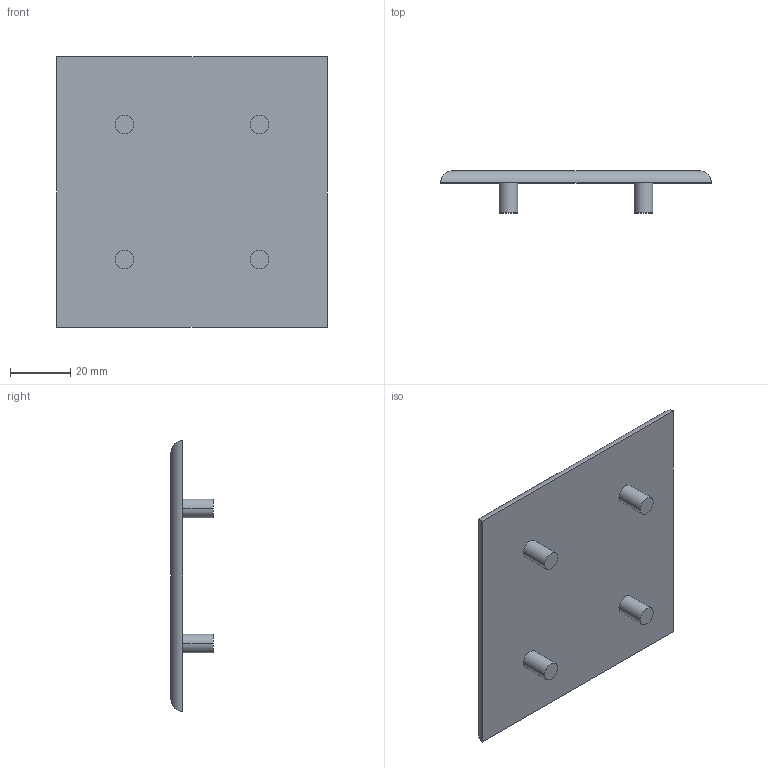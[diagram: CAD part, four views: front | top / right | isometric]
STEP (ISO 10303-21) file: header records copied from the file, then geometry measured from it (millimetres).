
FILE_DESCRIPTION((''),'2;1');
FILE_NAME('TAC909010','2002-12-27T',('Lipro doo'),('Lipro d.o.o.'),'PRO/ENGINEER BY PARAMETRIC TECHNOLOGY CORPORATION, 2001150','PRO/ENGINEER BY PARAMETRIC TECHNOLOGY CORPORATION, 2001150','');
FILE_SCHEMA(('CONFIG_CONTROL_DESIGN'));
Length unit declared in the file: millimetre
Products named in the file (1): TAC909010
Bounding box: 90 x 14 x 90 mm (x, y, z)
Volume: 32396.1 mm3; surface area: 17792 mm2
Topology: 1 solids, 1 shells, 18 faces, 36 edges, 24 vertices
Faces by surface type: cylinder 12, plane 6
Entity records: 550 total; most frequent: CARTESIAN_POINT 122, DIRECTION 84, ORIENTED_EDGE 72, EDGE_CURVE 36, AXIS2_PLACEMENT_3D 34, VERTEX_POINT 24, EDGE_LOOP 22, FACE_OUTER_BOUND 18
